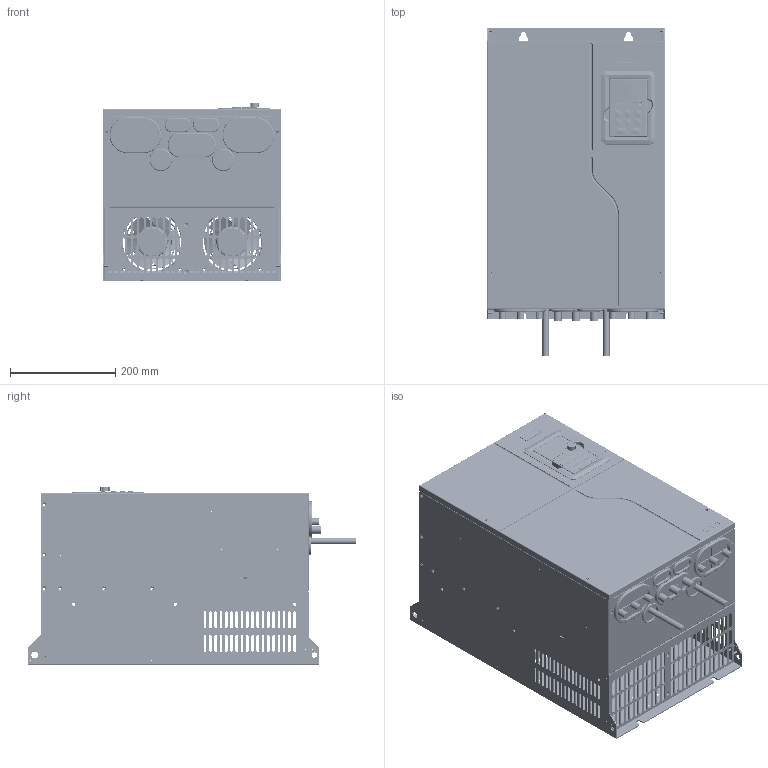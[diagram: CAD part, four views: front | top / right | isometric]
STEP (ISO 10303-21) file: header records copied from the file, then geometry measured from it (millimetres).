
FILE_DESCRIPTION((''),'2;1');
FILE_NAME('GD290-110G132P-4-B00_ASM','2025-04-10T11:24:11',('Administrator'),(''),'CREO PARAMETRIC BY PTC INC, 2019080','CREO PARAMETRIC BY PTC INC, 2019080','');
FILE_SCHEMA(('CONFIG_CONTROL_DESIGN'));
Products named in the file (112): 80310543_1_1; S-M4-ZC_1_1; S-M6-ZC_1_1; 80310543_ASM_1_ASM_1_ASM; 80387045_1_1; YMD-55-0D8-SL_1_1; BSO-M4-14-ZC_1_1; BSO-3D5M3-16-ZC_1_1; 80387045_ASM_1_ASM_1_ASM; 80482637_1_1; 80482637_ASM_1_ASM_1_ASM; 80482636_1_1; 80482636_ASM_1_ASM_1_ASM; 80387047_ASM_1_1; 80385052_1_1; 80385052_ASM_1_ASM_1_ASM; 80385055_1_1; 80385055_ASM_1_ASM_1_ASM; 80385056_ASM_1_1; 80385053_ASM_1_1; GB12617_4_4X10_SL_1_1; 61061695_ASM_1_ASM_1_ASM; 80385057_1_1; 80385057_ASM_1_ASM_1_ASM; 80384715_1_1; NZ-M8-ZC_1_1; 80384715_ASM_1_ASM_1_ASM; 80384715SY_1_1; 80384717_ASM_1_1; 80482418_1_1; 80482418_ASM_1_ASM_1_ASM; 80880315_1_1; 80387046_1_1; BSO-M4-10-ZC_1_1; FH-M3-6-ZC_1_1; 80387046_ASM_1_ASM_1_ASM; 80387046SY_1_1; 80387046SY_ASM_1_ASM_1_ASM; 86051638_1_1; 86051638_ASM_1_ASM_1_ASM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
Assembly tree (241 placements, depth 8):
  GD290-110G132P-4-B00_ASM
    GD270-132-4_ASM_ASM_1_ASM
      GD270-110-4_ASM_1_ASM_1_ASM
        41060163_ASM_1_ASM_1_ASM
          61061695_ASM_1_ASM_1_ASM
            80310543_ASM_1_ASM_1_ASM
              80310543_1_1
              S-M4-ZC_1_1  x6
              S-M6-ZC_1_1  x5
            80387045_ASM_1_ASM_1_ASM
              80387045_1_1
              YMD-55-0D8-SL_1_1  x2
              BSO-M4-14-ZC_1_1  x4
              BSO-3D5M3-16-ZC_1_1  x4
            80482637_ASM_1_ASM_1_ASM
              80482637_1_1
              S-M4-ZC_1_1  x2
            80482636_ASM_1_ASM_1_ASM
              80482636_1_1
              S-M4-ZC_1_1  x2
            80387047_ASM_1_1
            80385052_ASM_1_ASM_1_ASM  x2
              80385052_1_1
              S-M4-ZC_1_1
            80385055_ASM_1_ASM_1_ASM
              80385055_1_1
              S-M4-ZC_1_1  x2
            80385056_ASM_1_1
            80385053_ASM_1_1  x4
            GB12617_4_4X10_SL_1_1  x40
          80385057_ASM_1_ASM_1_ASM
            80385057_1_1
            S-M4-ZC_1_1  x10
          80384715_ASM_1_ASM_1_ASM
            80384715_1_1
            S-M6-ZC_1_1  x9
            NZ-M8-ZC_1_1  x2
          80384715SY_1_1
          80384717_ASM_1_1
          80482418_ASM_1_ASM_1_ASM
            80482418_1_1
            YMD-55-0D8-SL_1_1  x2
          80880315_1_1
          80387046SY_ASM_1_ASM_1_ASM
            80387046_ASM_1_ASM_1_ASM
              80387046_1_1
              S-M4-ZC_1_1  x4
              YMD-55-0D8-SL_1_1  x2
              BSO-M4-10-ZC_1_1  x4
              FH-M3-6-ZC_1_1
            80387046SY_1_1
          61061696_ASM_1_ASM_1_ASM
            86051638_ASM_1_ASM_1_ASM
              86051638_1_1
              YMD-55-0D8-SL_1_1  x2
          86051639SY_ASM_1_ASM_1_ASM
            86051639_ASM_1_ASM_1_ASM
              86051639_1_ASM_1_ASM
                86051639_1_1_1
                86051639_1_2_1
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Bounding box: 338 x 624 x 338.3 mm (x, y, z)
Volume: 3548413.7 mm3; surface area: 3444713.5 mm2
Topology: 207 solids, 209 shells, 17320 faces, 46561 edges, 30242 vertices
Faces by surface type: plane 12774, cylinder 3094, cone 803, torus 312, bspline 252, extrusion 33, revolution 32, sphere 20
Entity records: 255449 total; most frequent: CARTESIAN_POINT 60287, ORIENTED_EDGE 40278, DIRECTION 39849, EDGE_CURVE 20139, VECTOR 13801, LINE 13782, AXIS2_PLACEMENT_3D 13016, VERTEX_POINT 12933
